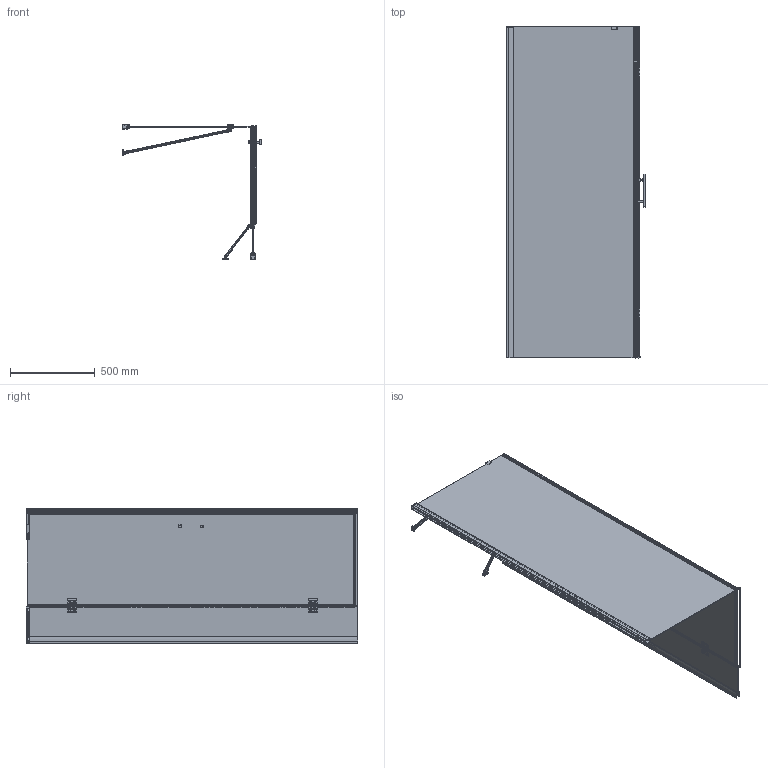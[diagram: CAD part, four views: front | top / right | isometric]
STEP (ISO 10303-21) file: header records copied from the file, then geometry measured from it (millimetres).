
FILE_DESCRIPTION(/* description */ (''),/* implementation_level */ '2;1');
FILE_NAME(/* name */ 'c:\worker\convert-fusion-r08\tmp\job-1\1\output\files\444114e1-7073-4d3e-b67e-f46315d5ba07\f87bdb8d-dda4-4f84-94f3-29fa12b77d5c.stp',/* time_stamp */ '2020-10-21T07:09:41+00:00',/* author */ (''),/* organization */ (''),/* preprocessor_version */ 'ST-DEVELOPER v18.1',/* originating_system */ 'Autodesk Translation Framework v9.3.0.1241',/* authorisation */ '');
FILE_SCHEMA (('AUTOMOTIVE_DESIGN { 1 0 10303 214 3 1 1 }'));
Products named in the file (2): !MH8080; !ADR80X v2
Assembly tree (1 placements, depth 2):
  !MH8080
    !ADR80X v2
Bounding box: 820.23 x 1955.36 x 797.01 mm (x, y, z)
Volume: 18346234.5 mm3; surface area: 7975202.7 mm2
Topology: 64 solids, 64 shells, 3392 faces, 8540 edges, 5270 vertices
Faces by surface type: plane 1508, cylinder 904, bspline 782, torus 116, cone 58, sphere 24
Full cylindrical faces by diameter (mm): 1.85 x4, 2 x4, 2.264 x8, 2.544 x4, 3.5 x4, 3.6 x49, 4 x14, 4.2 x2, 5 x12, 5.1 x1, 5.992 x2, 6 x6, 6.5 x4, 7 x2, 7.2 x4, 7.5 x4, 8.5 x2, 9.6 x8, 10 x2, 10.6 x8, 10.8 x4, 11.452 x4, 11.6 x8, 11.8 x8
Entity records: 306521 total; most frequent: CARTESIAN_POINT 229587, ORIENTED_EDGE 17024, DIRECTION 14168, EDGE_CURVE 8512, VERTEX_POINT 5270, LINE 4812, VECTOR 4812, AXIS2_PLACEMENT_3D 4678
